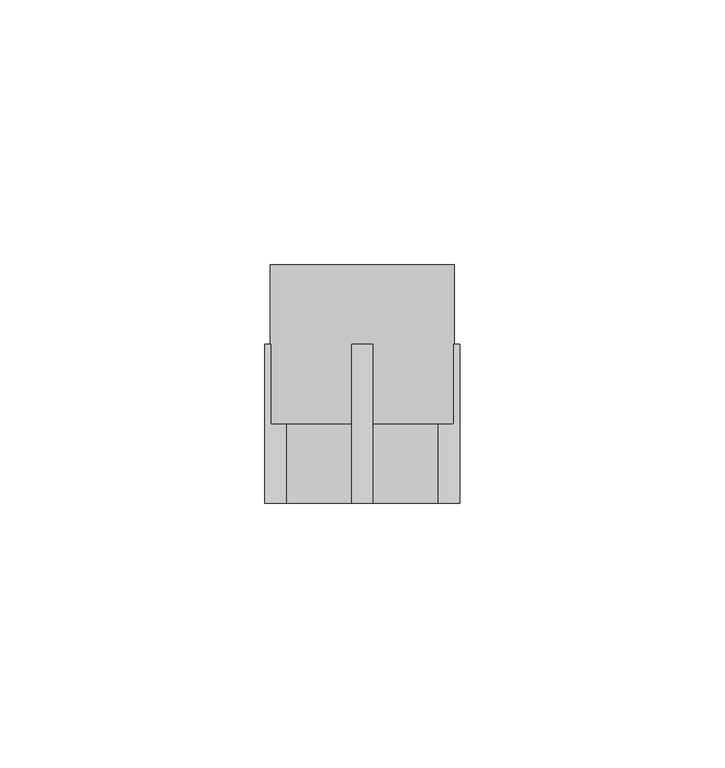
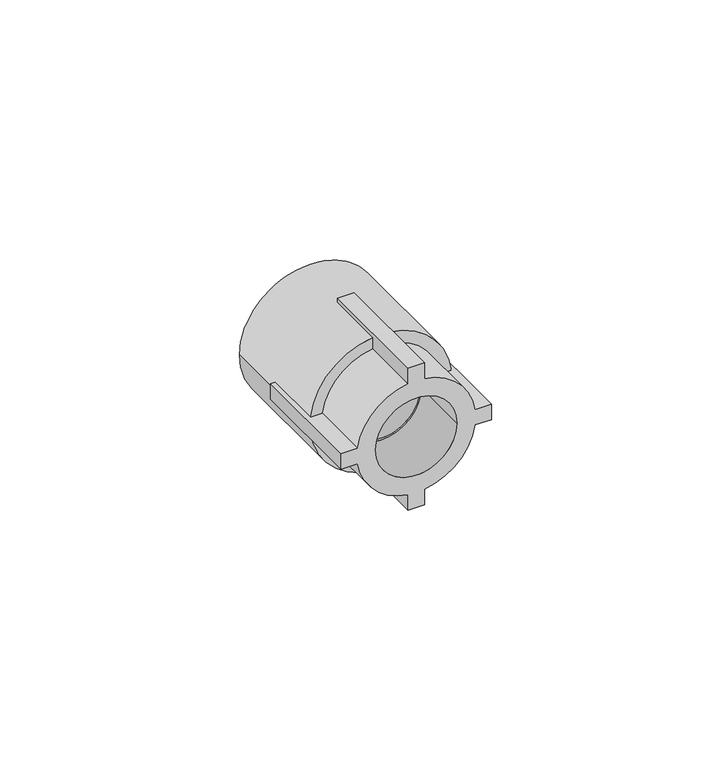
"""IFC4 building model written with IfcOpenShell, lengths in millimetres: pipe fitting geometry, EGB_VASEN_ PPR_Entronque rosca hembra WXR102 : Entronque rosca hembra WXR102."""

from ifc_helpers import new_model, si_unit, point, frame, origin, origin_2d, place, context, project, spatial, polyline, circle_curve, trimmed, segment, composite_curve, outline, extrude, source, transform, mapped, element, save
from ifc_brep_helpers import plane_surface, cylinder_surface, revolved_surface, advanced_brep


def pipe_fitting_c57bfca1(model_context):
    return source(origin(), model_context, "Body", "SolidModel", [
        advanced_brep(
        [(2.0, -15.0, 18.4), (-2.0, -15.0, 18.4), (-2.0, -15.0, 14.3614066), (-14.3614066, -15.0, 2.0), (-18.4, -15.0, 2.0), (-18.4, -15.0, -2.0), (-14.3614066, -15.0, -2.0), (-2.0, -15.0, -14.3614066), (-2.0, -15.0, -18.4), (2.0, -15.0, -18.4), (2.0, -15.0, -14.3614066), (14.3614066, -15.0, -2.0), (18.4, -15.0, -2.0), (18.4, -15.0, 2.0), (14.3614066, -15.0, 2.0), (2.0, -15.0, 14.3614066), (-10.0, -15.0, 0.0), (10.0, -15.0, 0.0), (-2.0, 15.0, 18.4), (2.0, 15.0, 18.4), (2.0, 15.0, 17.2846753), (-2.0, 15.0, 17.2846753), (2.0, 15.0, -18.4), (-2.0, 15.0, -18.4), (-2.0, 15.0, -17.2846753), (2.0, 15.0, -17.2846753), (18.4, 15.0, 2.0), (18.4, 15.0, -2.0), (17.2846753, 15.0, -2.0), (17.4, 15.0, 0.0), (17.2846753, 15.0, 2.0), (-18.4, 15.0, -2.0), (-18.4, 15.0, 2.0), (-17.2846753, 15.0, 2.0), (-17.4, 15.0, 0.0), (-17.2846753, 15.0, -2.0), (2.0, 0.0, 14.3614066), (2.0, 0.0, 17.2846753), (-2.0, 0.0, 17.2846753), (-2.0, 0.0, 14.3614066), (2.0, 0.0, -17.2846753), (2.0, 0.0, -14.3614066), (-2.0, 0.0, -14.3614066), (-2.0, 0.0, -17.2846753), (14.3614066, 0.0, -2.0), (17.2846753, 0.0, -2.0), (17.2846753, 0.0, 2.0), (14.3614066, 0.0, 2.0), (-17.2846753, 0.0, -2.0), (-14.3614066, 0.0, -2.0), (-14.3614066, 0.0, 2.0), (-17.2846753, 0.0, 2.0), (-10.0, 0.0, 0.0), (10.0, 0.0, 0.0), (-9.525, 0.0, 0.0), (9.525, 0.0, 0.0), (-17.4, 30.0, 0.0), (17.4, 30.0, 0.0), (-9.525, 30.0, 0.0), (9.525, 30.0, 0.0)],
        [
            (0, 1),
            (1, 2),
            (2, 3, circle_curve(frame((0.0, -15.0, 0.0), z_axis=(0.0, -1.0, 0.0), x_axis=(1.0, 0.0, 0.0)), 14.5)),
            (3, 4),
            (4, 5),
            (5, 6),
            (6, 7, circle_curve(frame((0.0, -15.0, 0.0), z_axis=(0.0, -1.0, 0.0), x_axis=(1.0, 0.0, 0.0)), 14.5)),
            (7, 8),
            (8, 9),
            (9, 10),
            (10, 11, circle_curve(frame((0.0, -15.0, 0.0), z_axis=(0.0, -1.0, 0.0), x_axis=(1.0, 0.0, 0.0)), 14.5)),
            (11, 12),
            (12, 13),
            (13, 14),
            (14, 15, circle_curve(frame((0.0, -15.0, 0.0), z_axis=(0.0, -1.0, 0.0), x_axis=(1.0, 0.0, 0.0)), 14.5)),
            (15, 0),
            (16, 17, circle_curve(frame((0.0, -15.0, 0.0), z_axis=(0.0, 1.0, 0.0), x_axis=(1.0, 0.0, 0.0)), 10.0)),
            (17, 16, circle_curve(frame((0.0, -15.0, 0.0), z_axis=(0.0, 1.0, 0.0), x_axis=(1.0, 0.0, 0.0)), 10.0)),
            (18, 19),
            (19, 20),
            (20, 21, circle_curve(frame((0.0, 15.0, 0.0), z_axis=(0.0, -1.0, 0.0), x_axis=(1.0, 0.0, 0.0)), 17.4)),
            (21, 18),
            (22, 23),
            (23, 24),
            (24, 25, circle_curve(frame((0.0, 15.0, 0.0), z_axis=(0.0, -1.0, 0.0), x_axis=(1.0, 0.0, 0.0)), 17.4)),
            (25, 22),
            (26, 27),
            (27, 28),
            (28, 29, circle_curve(frame((0.0, 15.0, 0.0), z_axis=(0.0, -1.0, 0.0), x_axis=(1.0, 0.0, 0.0)), 17.4)),
            (29, 30, circle_curve(frame((0.0, 15.0, 0.0), z_axis=(0.0, -1.0, 0.0), x_axis=(1.0, 0.0, 0.0)), 17.4)),
            (30, 26),
            (31, 32),
            (32, 33),
            (33, 34, circle_curve(frame((0.0, 15.0, 0.0), z_axis=(0.0, -1.0, 0.0), x_axis=(1.0, 0.0, 0.0)), 17.4)),
            (34, 35, circle_curve(frame((0.0, 15.0, 0.0), z_axis=(0.0, -1.0, 0.0), x_axis=(1.0, 0.0, 0.0)), 17.4)),
            (35, 31),
            (19, 0),
            (15, 36),
            (36, 37),
            (37, 20),
            (18, 1),
            (21, 38),
            (38, 39),
            (39, 2),
            (8, 23),
            (22, 9),
            (25, 40),
            (40, 41),
            (41, 10),
            (7, 42),
            (42, 43),
            (43, 24),
            (27, 12),
            (11, 44),
            (44, 45),
            (45, 28),
            (26, 13),
            (30, 46),
            (46, 47),
            (47, 14),
            (5, 31),
            (35, 48),
            (48, 49),
            (49, 6),
            (32, 4),
            (3, 50),
            (50, 51),
            (51, 33),
            (49, 42, circle_curve(frame((0.0, 0.0, 0.0), z_axis=(0.0, -1.0, 0.0), x_axis=(1.0, 0.0, 0.0)), 14.5)),
            (41, 44, circle_curve(frame((0.0, 0.0, 0.0), z_axis=(0.0, -1.0, 0.0), x_axis=(1.0, 0.0, 0.0)), 14.5)),
            (39, 50, circle_curve(frame((0.0, 0.0, 0.0), z_axis=(0.0, -1.0, 0.0), x_axis=(1.0, 0.0, 0.0)), 14.5)),
            (47, 36, circle_curve(frame((0.0, 0.0, 0.0), z_axis=(0.0, -1.0, 0.0), x_axis=(1.0, 0.0, 0.0)), 14.5)),
            (16, 52),
            (52, 53, circle_curve(frame((0.0, 0.0, 0.0), z_axis=(0.0, 1.0, 0.0), x_axis=(1.0, 0.0, 0.0)), 10.0)),
            (53, 17),
            (53, 52, circle_curve(frame((0.0, 0.0, 0.0), z_axis=(0.0, 1.0, 0.0), x_axis=(1.0, 0.0, 0.0)), 10.0)),
            (54, 55, circle_curve(frame((0.0, 0.0, 0.0), z_axis=(0.0, 1.0, 0.0), x_axis=(1.0, 0.0, 0.0)), 9.525)),
            (55, 54, circle_curve(frame((0.0, 0.0, 0.0), z_axis=(0.0, 1.0, 0.0), x_axis=(1.0, 0.0, 0.0)), 9.525)),
            (40, 45, circle_curve(frame((0.0, 0.0, 0.0), z_axis=(0.0, -1.0, 0.0), x_axis=(1.0, 0.0, 0.0)), 17.4)),
            (48, 43, circle_curve(frame((0.0, 0.0, 0.0), z_axis=(0.0, -1.0, 0.0), x_axis=(1.0, 0.0, 0.0)), 17.4)),
            (46, 37, circle_curve(frame((0.0, 0.0, 0.0), z_axis=(0.0, -1.0, 0.0), x_axis=(1.0, 0.0, 0.0)), 17.4)),
            (38, 51, circle_curve(frame((0.0, 0.0, 0.0), z_axis=(0.0, -1.0, 0.0), x_axis=(1.0, 0.0, 0.0)), 17.4)),
            (56, 57, circle_curve(frame((0.0, 30.0, 0.0), z_axis=(0.0, 1.0, 0.0), x_axis=(1.0, 0.0, 0.0)), 17.4)),
            (57, 56, circle_curve(frame((0.0, 30.0, 0.0), z_axis=(0.0, 1.0, 0.0), x_axis=(1.0, 0.0, 0.0)), 17.4)),
            (58, 59, circle_curve(frame((0.0, 30.0, 0.0), z_axis=(0.0, -1.0, 0.0), x_axis=(1.0, 0.0, 0.0)), 9.525)),
            (59, 58, circle_curve(frame((0.0, 30.0, 0.0), z_axis=(0.0, -1.0, 0.0), x_axis=(1.0, 0.0, 0.0)), 9.525)),
            (57, 29),
            (34, 56),
            (54, 58),
            (59, 55),
        ],
        [
            plane_surface(frame((0.0, -15.0, 0.0), z_axis=(0.0, -1.0, 0.0), x_axis=(0.0, 0.0, 1.0))),
            plane_surface(frame((0.0, 15.0, 0.0), z_axis=(0.0, 1.0, 0.0), x_axis=(0.0, 0.0, 1.0))),
            plane_surface(frame((2.0, -15.0, 13.5), z_axis=(1.0, 0.0, 0.0), x_axis=(0.0, 1.0, 0.0))),
            plane_surface(frame((2.0, -15.0, 18.4), z_axis=(0.0, 0.0, 1.0), x_axis=(0.0, 1.0, 0.0))),
            plane_surface(frame((-2.0, -15.0, 18.4), z_axis=(-1.0, 0.0, 0.0), x_axis=(0.0, 1.0, 0.0))),
            plane_surface(frame((-2.0, -15.0, -18.4), z_axis=(0.0, 0.0, -1.0), x_axis=(0.0, 1.0, 0.0))),
            plane_surface(frame((2.0, -15.0, -18.4), z_axis=(1.0, 0.0, 0.0), x_axis=(0.0, 1.0, 0.0))),
            plane_surface(frame((-2.0, -15.0, -13.5), z_axis=(-1.0, 0.0, 0.0), x_axis=(0.0, 1.0, 0.0))),
            plane_surface(frame((13.5, -15.0, -2.0), z_axis=(0.0, 0.0, -1.0), x_axis=(0.0, 1.0, 0.0))),
            plane_surface(frame((18.4, -15.0, -2.0), z_axis=(1.0, 0.0, 0.0), x_axis=(0.0, 1.0, 0.0))),
            plane_surface(frame((18.4, -15.0, 2.0), z_axis=(0.0, 0.0, 1.0), x_axis=(0.0, 1.0, 0.0))),
            plane_surface(frame((-18.4, -15.0, -2.0), z_axis=(0.0, 0.0, -1.0), x_axis=(0.0, 1.0, 0.0))),
            plane_surface(frame((-13.5, -15.0, 2.0), z_axis=(0.0, 0.0, 1.0), x_axis=(0.0, 1.0, 0.0))),
            plane_surface(frame((-18.4, -15.0, 2.0), z_axis=(-1.0, 0.0, 0.0), x_axis=(0.0, 1.0, 0.0))),
            cylinder_surface(frame((0.0, 0.0, 0.0), z_axis=(0.0, -1.0, 0.0), x_axis=(1.0, 0.0, 0.0)), 14.5),
            revolved_surface(polyline([(10.0, 0.0, 0.0), (10.0, -15.0, 0.0)]), (0.0, 0.0, 0.0), (0.0, 1.0, 0.0)),
            plane_surface(frame((17.4, 0.0, 0.0), z_axis=(0.0, -1.0, 0.0), x_axis=(0.0, 0.0, 1.0))),
            plane_surface(frame((17.4, 30.0, 0.0), z_axis=(0.0, 1.0, 0.0), x_axis=(0.0, 0.0, -1.0))),
            cylinder_surface(frame((0.0, 30.0, 0.0), z_axis=(0.0, -1.0, 0.0), x_axis=(1.0, 0.0, 0.0)), 17.4),
            revolved_surface(polyline([(9.525, 30.0, 0.0), (9.525, 0.0, 0.0)]), (0.0, 0.0, 0.0), (0.0, 1.0, 0.0)),
        ],
        [
            (0, [[1, 2, 3, 4, 5, 6, 7, 8, 9, 10, 11, 12, 13, 14, 15, 16], [17, 18]]),
            (1, [[19, 20, 21, 22]]),
            (1, [[23, 24, 25, 26]]),
            (1, [[27, 28, 29, 30, 31]]),
            (1, [[32, 33, 34, 35, 36]]),
            (2, [[37, -16, 38, 39, 40, -20]]),
            (3, [[-1, -37, -19, 41]]),
            (4, [[-41, -22, 42, 43, 44, -2]]),
            (5, [[-9, 45, -23, 46]]),
            (6, [[-46, -26, 47, 48, 49, -10]]),
            (7, [[-45, -8, 50, 51, 52, -24]]),
            (8, [[53, -12, 54, 55, 56, -28]]),
            (9, [[-13, -53, -27, 57]]),
            (10, [[-57, -31, 58, 59, 60, -14]]),
            (11, [[61, -36, 62, 63, 64, -6]]),
            (12, [[65, -4, 66, 67, 68, -33]]),
            (13, [[-5, -65, -32, -61]]),
            (14, [[-7, -64, 69, -50]]),
            (14, [[-11, -49, 70, -54]]),
            (14, [[-3, -44, 71, -66]]),
            (14, [[-15, -60, 72, -38]]),
            (15, [[-17, 73, 74, 75]]),
            (15, [[-18, -75, 76, -73]]),
            (16, [[-74, -76], [77, 78]]),
            (16, [[79, -55, -70, -48]]),
            (16, [[80, -51, -69, -63]]),
            (16, [[81, -39, -72, -59]]),
            (16, [[82, -67, -71, -43]]),
            (17, [[83, 84], [85, 86]]),
            (18, [[-84, 87, -29, -56, -79, -47, -25, -52, -80, -62, -35, 88]]),
            (18, [[-83, -88, -34, -68, -82, -42, -21, -40, -81, -58, -30, -87]]),
            (19, [[-77, 89, -86, 90]]),
            (19, [[-78, -90, -85, -89]]),
        ],
    ),
        extrude(outline(composite_curve([segment(trimmed(circle_curve(origin_2d(), 9.525), [point((0.0, -9.525))], [point((0.0, 9.525))], False, "CARTESIAN"), True, "CONTINUOUS"), segment(trimmed(circle_curve(origin_2d(), 9.525), [point((0.0, 9.525))], [point((0.0, -9.525))], False, "CARTESIAN"), True, "CONTINUOUS")], self_intersect=False)), frame((0.0, 15.0, 0.0), z_axis=(0.0, 1.0, 0.0), x_axis=(0.0, 0.0, 1.0)), (0.0, 0.0, 1.0), 15.0),
    ])


if __name__ == "__main__":
    model = new_model("IFC4")
    model_context = context("Model", 3, world=origin())
    ifc_project = project(units=[si_unit("LENGTHUNIT", "METRE", prefix="MILLI")], contexts=[model_context])
    site = spatial("IfcSite", under=ifc_project)
    building = spatial("IfcBuilding", under=site)
    placement = place(None, origin())
    pipe_fitting_shape = pipe_fitting_c57bfca1(model_context)
    element("IfcPipeFitting", 1, ObjectType="EGB_VASEN_ PPR_Entronque rosca hembra WXR102 : Entronque rosca hembra WXR102", at=placement, inside=building, context=model_context, shape_type="MappedRepresentation", body=[
        mapped(pipe_fitting_shape, transform((0.0, 0.0, 0.0), x_axis=(1.0, 0.0, 0.0), y_axis=(0.0, 1.0, 0.0), z_axis=(0.0, 0.0, 1.0))),
    ])
    save(model, "model.ifc")
